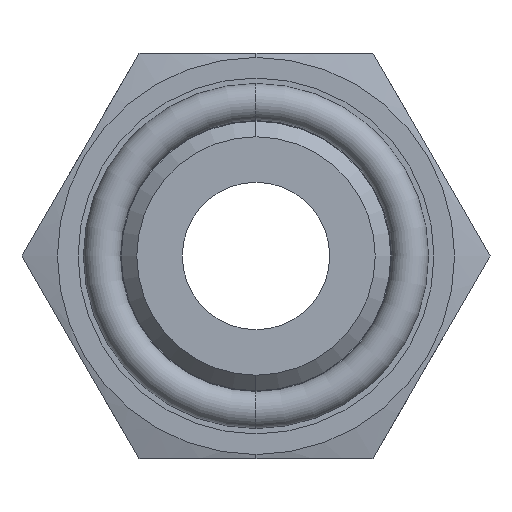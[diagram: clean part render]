
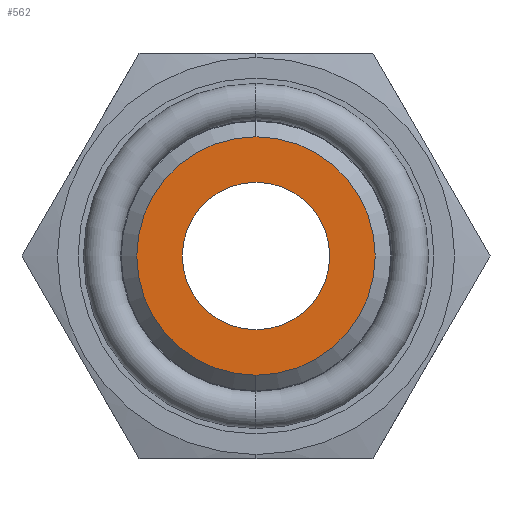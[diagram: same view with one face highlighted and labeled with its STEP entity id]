
A CAD part, left-side view. The second image highlights one B-rep face of the part: STEP entity #562.
In plain terms, the highlighted planar face has unit normal (-1, 0, 0).
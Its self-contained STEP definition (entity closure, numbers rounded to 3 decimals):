
#66 = EDGE_CURVE ( 'NONE', #71, #72, #811, .T. ) ;
#71 = VERTEX_POINT ( 'NONE', #801 ) ;
#72 = VERTEX_POINT ( 'NONE', #800 ) ;
#94 = EDGE_CURVE ( 'NONE', #72, #71, #820, .T. ) ;
#156 = VERTEX_POINT ( 'NONE', #961 ) ;
#164 = VERTEX_POINT ( 'NONE', #1011 ) ;
#165 = EDGE_CURVE ( 'NONE', #164, #156, #1006, .T. ) ;
#540 = EDGE_LOOP ( 'NONE', ( #541, #543 ) ) ;
#541 = ORIENTED_EDGE ( 'NONE', *, *, #542, .T. ) ;
#542 = EDGE_CURVE ( 'NONE', #156, #164, #1775, .T. ) ;
#543 = ORIENTED_EDGE ( 'NONE', *, *, #165, .T. ) ;
#562 = ADVANCED_FACE ( 'NONE', ( #1804, #1803 ), #1802, .T. ) ;
#563 = EDGE_LOOP ( 'NONE', ( #564, #565 ) ) ;
#564 = ORIENTED_EDGE ( 'NONE', *, *, #66, .F. ) ;
#565 = ORIENTED_EDGE ( 'NONE', *, *, #94, .F. ) ;
#800 = CARTESIAN_POINT ( 'NONE',  ( -16.4, 0., 5.2 ) ) ;
#801 = CARTESIAN_POINT ( 'NONE',  ( -16.4, 0., -5.2 ) ) ;
#807 = DIRECTION ( 'NONE',  ( 0., 0., 1. ) ) ;
#808 = DIRECTION ( 'NONE',  ( -1., 0., 0. ) ) ;
#809 = CARTESIAN_POINT ( 'NONE',  ( -16.4, 0., 0. ) ) ;
#810 = AXIS2_PLACEMENT_3D ( 'NONE', #809, #808, #807 ) ;
#811 = CIRCLE ( 'NONE', #810, 5.2 ) ;
#817 = DIRECTION ( 'NONE',  ( -1., 0., 0. ) ) ;
#818 = CARTESIAN_POINT ( 'NONE',  ( -16.4, 0., 0. ) ) ;
#819 = AXIS2_PLACEMENT_3D ( 'NONE', #818, #817, #877 ) ;
#820 = CIRCLE ( 'NONE', #819, 5.2 ) ;
#877 = DIRECTION ( 'NONE',  ( 0., 0., 1. ) ) ;
#961 = CARTESIAN_POINT ( 'NONE',  ( -16.4, 0., -8.406 ) ) ;
#1002 = DIRECTION ( 'NONE',  ( 0., 0., 1. ) ) ;
#1003 = DIRECTION ( 'NONE',  ( -1., 0., 0. ) ) ;
#1004 = CARTESIAN_POINT ( 'NONE',  ( -16.4, 0., 0. ) ) ;
#1005 = AXIS2_PLACEMENT_3D ( 'NONE', #1004, #1003, #1002 ) ;
#1006 = CIRCLE ( 'NONE', #1005, 8.406 ) ;
#1011 = CARTESIAN_POINT ( 'NONE',  ( -16.4, 0., 8.406 ) ) ;
#1771 = DIRECTION ( 'NONE',  ( 0., 0., 1. ) ) ;
#1772 = DIRECTION ( 'NONE',  ( -1., 0., 0. ) ) ;
#1773 = CARTESIAN_POINT ( 'NONE',  ( -16.4, 0., 0. ) ) ;
#1774 = AXIS2_PLACEMENT_3D ( 'NONE', #1773, #1772, #1771 ) ;
#1775 = CIRCLE ( 'NONE', #1774, 8.406 ) ;
#1797 = DIRECTION ( 'NONE',  ( 0., 0., 1. ) ) ;
#1798 = DIRECTION ( 'NONE',  ( -1., 0., 0. ) ) ;
#1799 = AXIS2_PLACEMENT_3D ( 'NONE', #1801, #1798, #1797 ) ;
#1801 = CARTESIAN_POINT ( 'NONE',  ( -16.4, 0., 0. ) ) ;
#1802 = PLANE ( 'NONE',  #1799 ) ;
#1803 = FACE_OUTER_BOUND ( 'NONE', #540, .T. ) ;
#1804 = FACE_BOUND ( 'NONE', #563, .T. ) ;
